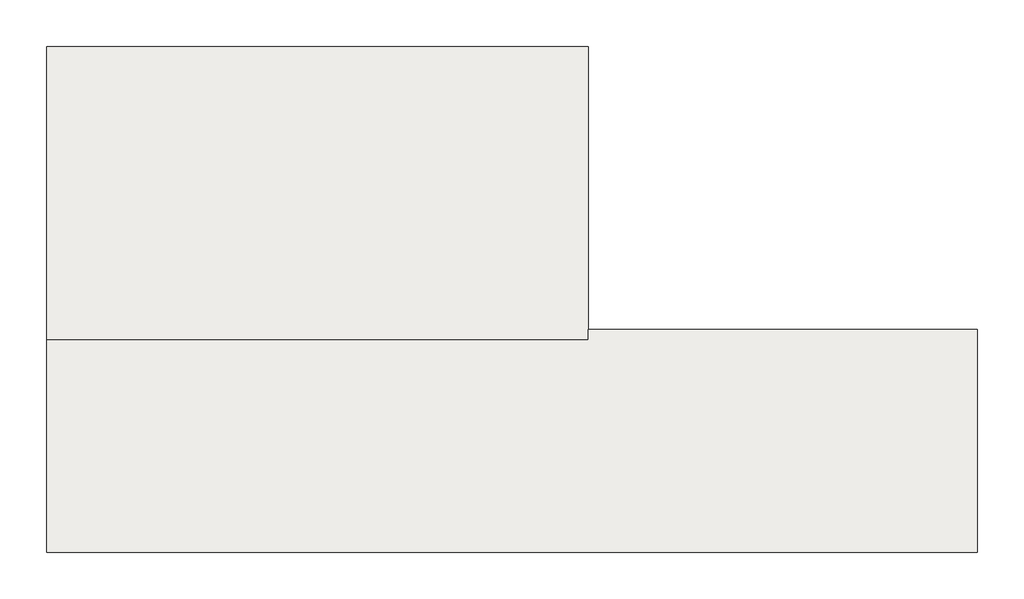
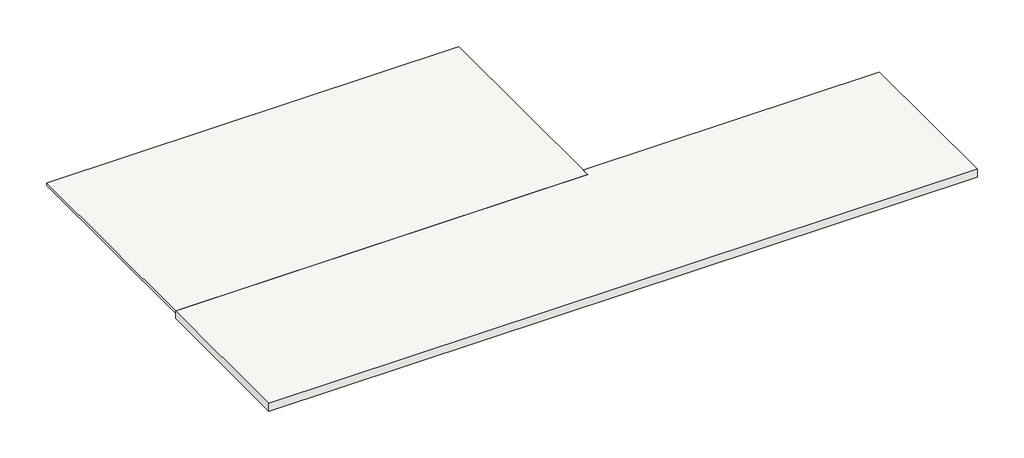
# One storey: 2 slabs.
"""IFC4 building model written with IfcOpenShell, lengths in millimetres."""

from ifc_helpers import new_model, si_unit, frame, origin, place, context, project, spatial, polyline, outline, extrude, element, save

model = new_model("IFC4")

# Units and contexts
model_context = context("Model", 3, world=origin())
ifc_project = project(units=[si_unit("LENGTHUNIT", "METRE", prefix="MILLI")], contexts=[model_context])

# Site, building, storey
site = spatial("IfcSite", under=ifc_project)
building = spatial("IfcBuilding", under=site)
storey = spatial("IfcBuildingStorey", under=building, Name="标高 2", Elevation=3000.0)

# Slabs
placement = place(None, origin())
element("IfcSlab", 1, ObjectType="常规 - 100mm", at=placement, inside=storey, context=model_context, shape_type="SweptSolid", body=[
    extrude(outline(polyline([(-10908.6008349, 7285.4813836), (4391.3991651, 7285.4813836), (4391.3991651, -1014.5186164), (-10908.6008349, -1014.5186164), (-10908.6008349, 7285.4813836)])), frame((0.0, 0.0, 2900.0), z_axis=(0.0, 0.0, 1.0), x_axis=(1.0, 0.0, 0.0)), (0.0, 0.0, 1.0), 100.0),
])
element("IfcSlab", 2, ObjectType="常规 - 300mm", at=placement, inside=storey, context=model_context, shape_type="SweptSolid", body=[
    extrude(outline(polyline([(4391.3991651, -1014.5186164), (4391.3991651, -714.5186164), (15391.3991651, -714.5186164), (15391.3991651, -7014.5186164), (-10908.6008349, -7014.5186164), (-10908.6008349, -1014.5186164), (4391.3991651, -1014.5186164)])), frame((0.0, 0.0, 2700.0), z_axis=(0.0, 0.0, 1.0), x_axis=(1.0, 0.0, 0.0)), (0.0, 0.0, 1.0), 300.0),
])

save(model, "model.ifc")
